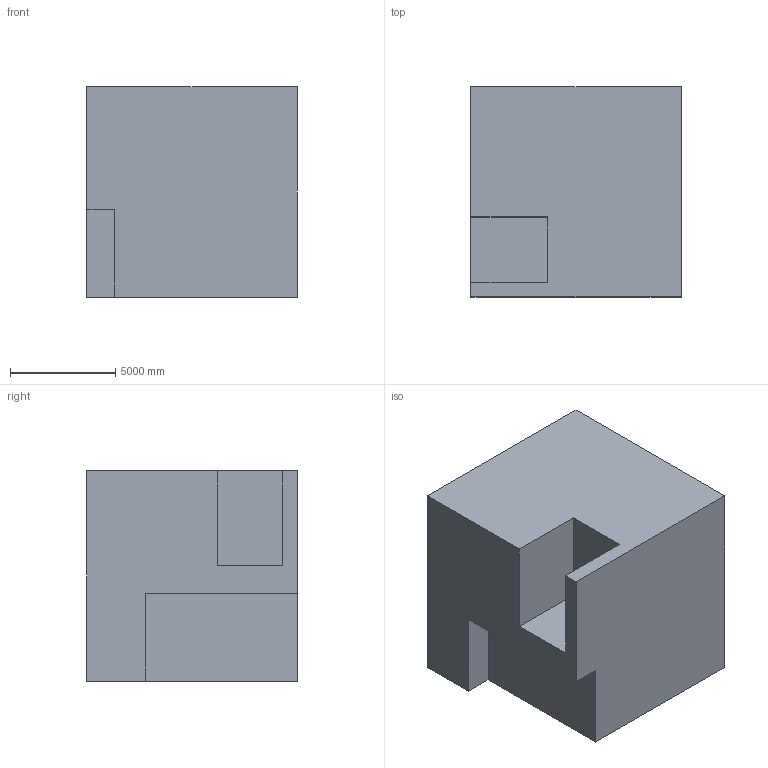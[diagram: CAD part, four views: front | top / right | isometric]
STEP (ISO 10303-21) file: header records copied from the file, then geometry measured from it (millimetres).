
FILE_DESCRIPTION (( 'STEP AP203' ), '1' );
FILE_NAME ('186.STEP', '2022-07-28T13:50:44', ( 'user' ), ( '' ), 'SwSTEP 2.0', 'SolidWorks 2021', '' );
FILE_SCHEMA (( 'CONFIG_CONTROL_DESIGN' ));
Length unit declared in the file: centimetre
Products named in the file (1): 186
Bounding box: 10000 x 10000 x 10000 mm (x, y, z)
Volume: 909475583819.4 mm3; surface area: 632784458.4 mm2
Topology: 1 solids, 1 shells, 13 faces, 33 edges, 22 vertices
Faces by surface type: plane 13
Entity records: 464 total; most frequent: CARTESIAN_POINT 69, ORIENTED_EDGE 66, DIRECTION 61, LINE 33, EDGE_CURVE 33, VECTOR 33, VERTEX_POINT 22, AXIS2_PLACEMENT_3D 14
